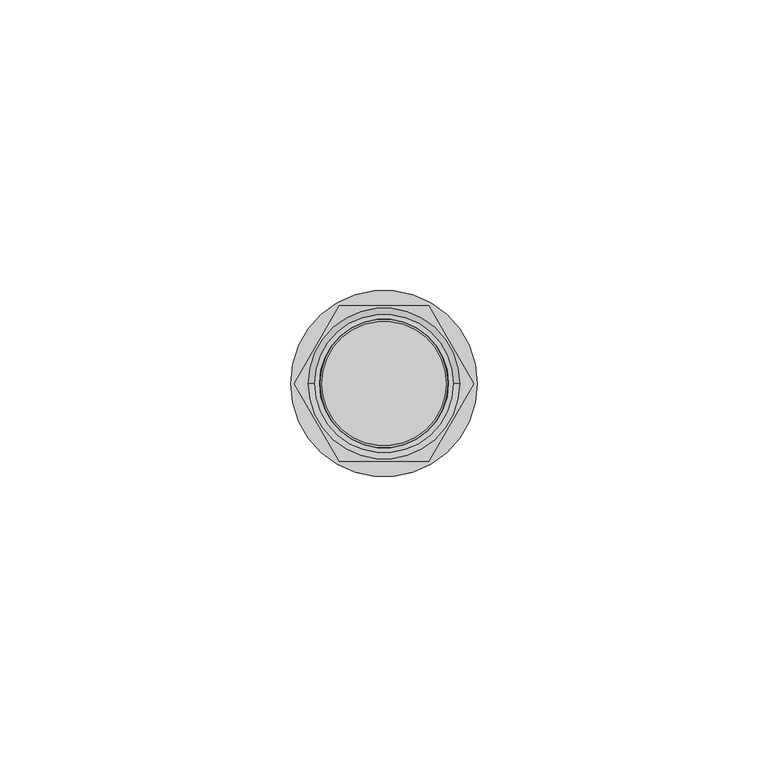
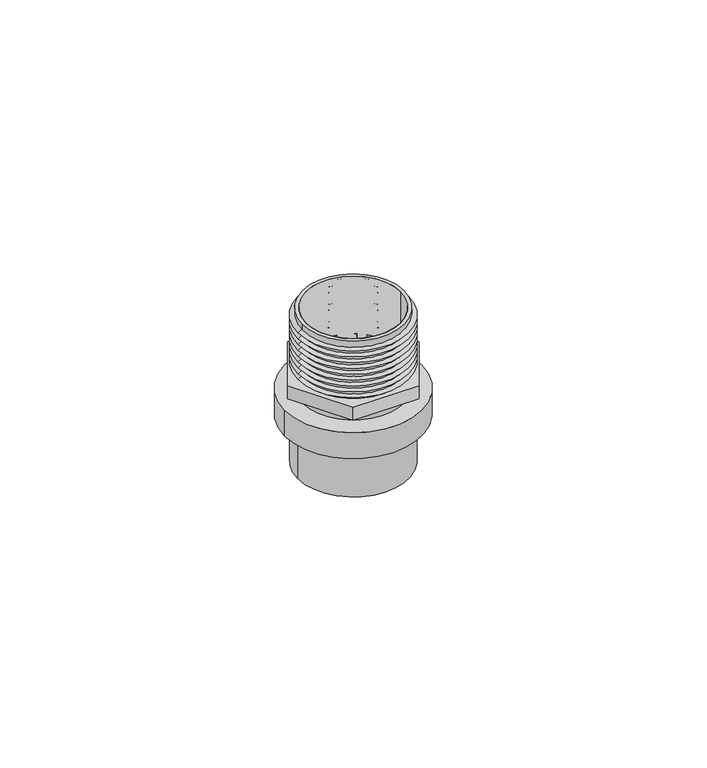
"""IFC4 building model written with IfcOpenShell, lengths in millimetres: valve geometry, Adaptador Macho con Ins Metalico_Lubrizol_CPVC_FlowGuard_MX 19mm : Adaptador Macho con Ins Metalico_Lubrizol_CPVC_FlowGuard_MX 19mm."""

import ifcopenshell
import ifcopenshell.guid

model = None  # the IFC model being written
_history = None  # IfcOwnerHistory: only IFC2X3 demands one
_inside = {}  # id of a spatial element -> (the spatial element, [elements in it])
_under = {}  # id of a project, library or spatial element -> (it, [spatial elements below it])
_declared = {}  # id of a project -> (the project, [libraries it declares])
_typed = {}  # id of a type object -> (the type object, [elements of that type])
_made_of = {}  # id of a material, layer set ... -> (it, [elements and type objects made of it])


def new_model(schema):
    """Start an empty IFC model of exactly this schema.

    Asked for "IFC4X3", IfcOpenShell would pick the latest addendum, in which some entities
    have other attributes; the version numbers below select the first issue.
    IFC2X3 requires an IfcOwnerHistory on every rooted entity: one is made here for all.
    """
    global model, _history
    if schema == "IFC4X3":
        model = ifcopenshell.file(schema_version=(4, 3, 0, 0))
    else:
        model = ifcopenshell.file(schema=schema)
    _inside.clear()
    _under.clear()
    _declared.clear()
    _typed.clear()
    _made_of.clear()
    _history = None
    if model.schema == "IFC2X3":
        org = make("IfcOrganization", Name="unknown")
        user = make(
            "IfcPersonAndOrganization",
            ThePerson=make("IfcPerson", FamilyName="unknown"),
            TheOrganization=org,
        )
        app = make(
            "IfcApplication",
            ApplicationDeveloper=org,
            Version="unknown",
            ApplicationFullName="unknown",
            ApplicationIdentifier="unknown",
        )
        _history = make(
            "IfcOwnerHistory",
            OwningUser=user,
            OwningApplication=app,
            ChangeAction="ADDED",
            CreationDate=0,
        )
    return model


def make(cls, **values):
    """One entity of the class cls with the attributes given. An attribute that is None is left unset."""
    return model.create_entity(
        cls, **{name: value for name, value in values.items() if value is not None}
    )


def rooted(cls, **values):
    """An entity with a GlobalId (a new one), such as an element, a storey or a relation."""
    return make(cls, GlobalId=ifcopenshell.guid.new(), OwnerHistory=_history, **values)


def si_unit(unit_type, name, prefix=None):
    """IfcSIUnit, for example si_unit("LENGTHUNIT", "METRE", prefix="MILLI")."""
    return make("IfcSIUnit", UnitType=unit_type, Prefix=prefix, Name=name)


def assignment(units):
    """IfcUnitAssignment: the units of a project."""
    return None if units is None else make("IfcUnitAssignment", Units=units)


def point(xyz):
    """IfcCartesianPoint."""
    return None if xyz is None else make("IfcCartesianPoint", Coordinates=xyz)


def direction(xyz):
    """IfcDirection."""
    return None if xyz is None else make("IfcDirection", DirectionRatios=xyz)


def frame(location, z_axis=None, x_axis=None):
    """IfcAxis2Placement3D, a coordinate frame: its origin and axes. An axis left out is left unset."""
    return make(
        "IfcAxis2Placement3D",
        Location=point(location),
        Axis=direction(z_axis),
        RefDirection=direction(x_axis),
    )


def frame_2d(location, x_axis=None):
    """IfcAxis2Placement2D, a coordinate frame in the plane: its origin and x axis."""
    return make(
        "IfcAxis2Placement2D", Location=point(location), RefDirection=direction(x_axis)
    )


def origin():
    """The frame at (0, 0, 0) with its axes left unset."""
    return frame((0.0, 0.0, 0.0))


def origin_with_axes():
    """The frame at (0, 0, 0) with the z axis (0, 0, 1) and the x axis (1, 0, 0) written out."""
    return frame((0.0, 0.0, 0.0), z_axis=(0.0, 0.0, 1.0), x_axis=(1.0, 0.0, 0.0))


def origin_2d():
    """The frame at (0, 0) in the plane with its x axis left unset."""
    return frame_2d((0.0, 0.0))


def place(relative_to, where):
    """IfcLocalPlacement: puts the frame where relative to a parent placement (None: the world)."""
    return make(
        "IfcLocalPlacement", PlacementRelTo=relative_to, RelativePlacement=where
    )


def context(
    kind, dimensions, precision=None, world=None, true_north=None, identifier=None
):
    """IfcGeometricRepresentationContext, for example the 3D "Model" context."""
    return make(
        "IfcGeometricRepresentationContext",
        ContextIdentifier=identifier,
        ContextType=kind,
        CoordinateSpaceDimension=dimensions,
        Precision=precision,
        WorldCoordinateSystem=world,
        TrueNorth=true_north,
    )


def project(units=None, contexts=None):
    """IfcProject with its units and contexts."""
    return rooted(
        "IfcProject",
        Name="project",
        RepresentationContexts=contexts,
        UnitsInContext=assignment(units),
    )


def spatial(cls, under=None, at=None, **own):
    """A site, building, storey or space (cls), placed at a placement, below another one or the project."""
    s = rooted(cls, ObjectPlacement=at, **own)
    if under is not None:
        _under.setdefault(under.id(), (under, []))[1].append(s)
    return s


def polyline(points):
    """IfcPolyline through the points."""
    return make("IfcPolyline", Points=[point(p) for p in points])


def circle_curve(where, radius):
    """IfcCircle in the frame where."""
    return make("IfcCircle", Position=where, Radius=radius)


def trimmed(basis, trim1, trim2, sense, master):
    """IfcTrimmedCurve: the piece of a basis curve between two trims."""
    return make(
        "IfcTrimmedCurve",
        BasisCurve=basis,
        Trim1=trim1,
        Trim2=trim2,
        SenseAgreement=sense,
        MasterRepresentation=master,
    )


def segment(curve, same_sense, transition):
    """IfcCompositeCurveSegment."""
    return make(
        "IfcCompositeCurveSegment",
        Transition=transition,
        SameSense=same_sense,
        ParentCurve=curve,
    )


def composite_curve(segments, self_intersect=None):
    """IfcCompositeCurve: segments joined end to end."""
    return make("IfcCompositeCurve", Segments=segments, SelfIntersect=self_intersect)


def outline(outer, holes=None, kind="AREA"):
    """IfcArbitraryClosedProfileDef: a profile drawn as a closed curve; with holes, ...WithVoids."""
    if holes is None:
        return make("IfcArbitraryClosedProfileDef", ProfileType=kind, OuterCurve=outer)
    return make(
        "IfcArbitraryProfileDefWithVoids",
        ProfileType=kind,
        OuterCurve=outer,
        InnerCurves=holes,
    )


def extrude(swept, where, along, depth):
    """IfcExtrudedAreaSolid: the profile swept, set in the frame where, extruded along a direction by depth."""
    return make(
        "IfcExtrudedAreaSolid",
        SweptArea=swept,
        Position=where,
        ExtrudedDirection=direction(along),
        Depth=depth,
    )


def shape(context_of_items, identifier, shape_type, items):
    """IfcShapeRepresentation: the items that make up one representation, for example the "Body"."""
    return make(
        "IfcShapeRepresentation",
        ContextOfItems=context_of_items,
        RepresentationIdentifier=identifier,
        RepresentationType=shape_type,
        Items=items,
    )


def source(mapping_origin, context_of_items, identifier, shape_type, items):
    """IfcRepresentationMap: a shape defined once, which mapped items show again and again."""
    return make(
        "IfcRepresentationMap",
        MappingOrigin=mapping_origin,
        MappedRepresentation=shape(context_of_items, identifier, shape_type, items),
    )


def transform(
    local_origin,
    x_axis=None,
    y_axis=None,
    z_axis=None,
    scale=None,
    scale2=None,
    scale3=None,
    uniform=True,
):
    """IfcCartesianTransformationOperator3D, or its non-uniform kind. x_axis, y_axis, z_axis: its Axis1, 2, 3."""
    if uniform:
        return make(
            "IfcCartesianTransformationOperator3D",
            Axis1=direction(x_axis),
            Axis2=direction(y_axis),
            LocalOrigin=point(local_origin),
            Scale=scale,
            Axis3=direction(z_axis),
        )
    return make(
        "IfcCartesianTransformationOperator3DnonUniform",
        Axis1=direction(x_axis),
        Axis2=direction(y_axis),
        LocalOrigin=point(local_origin),
        Scale=scale,
        Axis3=direction(z_axis),
        Scale2=scale2,
        Scale3=scale3,
    )


def mapped(mapping_source, mapping_target):
    """IfcMappedItem: shows the shape of a source again, moved by a transform."""
    return make(
        "IfcMappedItem", MappingSource=mapping_source, MappingTarget=mapping_target
    )


def made_of(thing, what):
    """Note that an element or type object is made of a material, layer set ...; save() writes the relation."""
    if what is not None:
        _made_of.setdefault(what.id(), (what, []))[1].append(thing)
    return thing


def element(
    cls,
    number,
    at=None,
    inside=None,
    cuts=None,
    type_object=None,
    material=None,
    context=None,
    identifier="Body",
    shape_type=None,
    held_by="IfcProductDefinitionShape",
    body=None,
    shapes=None,
    **own,
):
    """One element of the class cls, such as IfcWall. Its Tag is "e" and its number.

    at: its placement. inside: the storey or other place that contains it. cuts: it is an
    opening in that element (IfcRelVoidsElement). A single representation is given by context,
    identifier, shape_type and body (its items); several are given by shapes. held_by: the class
    of the entity that holds the representations. save() writes the other relations.
    """
    e = rooted(cls, Tag="e%d" % number, ObjectPlacement=at, **own)
    if body is not None:
        shapes = [shape(context, identifier, shape_type, body)]
    if shapes is not None:
        e.Representation = make(held_by, Representations=shapes)
    if inside is not None:
        _inside.setdefault(inside.id(), (inside, []))[1].append(e)
    if cuts is not None:
        rooted(
            "IfcRelVoidsElement", RelatingBuildingElement=cuts, RelatedOpeningElement=e
        )
    if type_object is not None:
        _typed.setdefault(type_object.id(), (type_object, []))[1].append(e)
    return made_of(e, material)


def aggregate(whole, parts):
    """IfcRelAggregates: a whole, such as a stair, and the parts it consists of."""
    return rooted("IfcRelAggregates", RelatingObject=whole, RelatedObjects=parts)


def save(model, path):
    """Write the relations noted so far, then the file.

    IfcRelAggregates (storeys below a building ...), IfcRelContainedInSpatialStructure (elements
    in a storey), IfcRelDefinesByType, IfcRelAssociatesMaterial and IfcRelDeclares: one each for
    every whole, place, type object, material and project.
    """
    for whole, parts in _under.values():
        aggregate(whole, parts)
    for where, things in _inside.values():
        rooted(
            "IfcRelContainedInSpatialStructure",
            RelatedElements=things,
            RelatingStructure=where,
        )
    for kind, things in _typed.values():
        rooted("IfcRelDefinesByType", RelatedObjects=things, RelatingType=kind)
    for what, things in _made_of.values():
        rooted("IfcRelAssociatesMaterial", RelatedObjects=things, RelatingMaterial=what)
    for by, libraries in _declared.values():
        rooted("IfcRelDeclares", RelatingContext=by, RelatedDefinitions=libraries)
    model.write(path)


def plane_surface(at):
    """IfcPlane: the flat surface through the origin of the frame at, square to its z axis."""
    return make("IfcPlane", Position=at)


def cylinder_surface(at, radius):
    """IfcCylindricalSurface: all points at the distance radius from the z axis of the frame at."""
    return make("IfcCylindricalSurface", Position=at, Radius=radius)


def revolved_surface(curve, axis_point, axis_direction):
    """IfcSurfaceOfRevolution: the curve turned about the line through axis_point along axis_direction."""
    return make(
        "IfcSurfaceOfRevolution",
        SweptCurve=make("IfcArbitraryOpenProfileDef", ProfileType="CURVE", Curve=curve),
        AxisPosition=make("IfcAxis1Placement", Location=point(axis_point), Axis=direction(axis_direction)),
    )


def advanced_brep(points, edges, surfaces, faces):
    """IfcAdvancedBrep: a solid bounded by faces that lie on surfaces and meet in shared edges.

    An edge is (start, end): straight between two places in points (the first is 0);
    or (start, end, curve); or (start, end, curve, False) where it runs against its curve.
    A face is (place in surfaces, loops), or (place, loops, False) where it looks against
    its surface's normal. A loop lists edges by number (the first is 1), with a minus sign
    where the edge is run from its end to its start. The first loop is the outer one.
    """
    corners = [point(p) for p in points]
    vertices = [make("IfcVertexPoint", VertexGeometry=c) for c in corners]
    made = []
    for start, end, *more in edges:
        made.append(
            make(
                "IfcEdgeCurve",
                EdgeStart=vertices[start],
                EdgeEnd=vertices[end],
                EdgeGeometry=more[0] if more else make("IfcPolyline", Points=[corners[start], corners[end]]),
                SameSense=more[1] if len(more) > 1 else True,
            )
        )
    hull = []
    for where, loops, *sense in faces:
        bounds = []
        for j, loop in enumerate(loops):
            ring = [make("IfcOrientedEdge", EdgeElement=made[abs(k) - 1], Orientation=k > 0) for k in loop]
            bounds.append(
                make(
                    "IfcFaceOuterBound" if j == 0 else "IfcFaceBound",
                    Bound=make("IfcEdgeLoop", EdgeList=ring),
                    Orientation=True,
                )
            )
        hull.append(make("IfcAdvancedFace", Bounds=bounds, FaceSurface=surfaces[where], SameSense=sense[0] if sense else True))
    return make("IfcAdvancedBrep", Outer=make("IfcClosedShell", CfsFaces=hull))


def valve_b4eb689a(model_context):
    return source(origin(), model_context, "Body", "SolidModel", [
        extrude(outline(composite_curve([segment(trimmed(circle_curve(origin_2d(), 16.0926336), [point((-16.0926336, 0.0))], [point((16.0926336, 0.0))], False, "CARTESIAN"), True, "CONTINUOUS"), segment(trimmed(circle_curve(origin_2d(), 16.0926336), [point((16.0926336, 0.0))], [point((-16.0926336, 0.0))], False, "CARTESIAN"), True, "CONTINUOUS")], self_intersect=False)), frame((0.0, 0.0, 11.6836596), z_axis=(0.0, 0.0, 1.0), x_axis=(1.0, 0.0, 0.0)), (0.0, 0.0, 1.0), 6.4086549),
        extrude(outline(composite_curve([segment(trimmed(circle_curve(origin_2d(), 11.9362873), [point((-11.9362873, 0.0))], [point((11.9362873, 0.0))], False, "CARTESIAN"), True, "CONTINUOUS"), segment(trimmed(circle_curve(origin_2d(), 11.9362873), [point((11.9362873, 0.0))], [point((-11.9362873, 0.0))], False, "CARTESIAN"), True, "CONTINUOUS")], self_intersect=False), holes=[composite_curve([segment(trimmed(circle_curve(origin_2d(), 11.1), [point((-11.1, 0.0))], [point((11.1, 0.0))], True, "CARTESIAN"), True, "CONTINUOUS"), segment(trimmed(circle_curve(origin_2d(), 11.1), [point((11.1, 0.0))], [point((-11.1, 0.0))], True, "CARTESIAN"), True, "CONTINUOUS")], self_intersect=False)]), frame((0.0, 0.0, 18.0923145), z_axis=(0.0, 0.0, 1.0), x_axis=(1.0, 0.0, 0.0)), (0.0, 0.0, 1.0), 19.9076855),
        extrude(outline(polyline([(-7.7266578, -13.382964), (-15.4533157, 0.0), (-7.7266578, 13.382964), (7.7266578, 13.382964), (15.4533157, 0.0), (7.7266578, -13.382964), (-7.7266578, -13.382964)]), holes=[composite_curve([segment(trimmed(circle_curve(origin_2d(), 10.7), [point((-10.7, 0.0))], [point((10.7, 0.0))], True, "CARTESIAN"), True, "CONTINUOUS"), segment(trimmed(circle_curve(origin_2d(), 10.7), [point((10.7, 0.0))], [point((-10.7, 0.0))], True, "CARTESIAN"), True, "CONTINUOUS")], self_intersect=False)]), frame((0.0, 0.0, 20.7420661), z_axis=(0.0, 0.0, 1.0), x_axis=(1.0, 0.0, 0.0)), (0.0, 0.0, 1.0), 3.2579339),
        advanced_brep(
        [(11.9362873, 0.0, 37.0089284), (-11.9362873, 0.0, 37.0089284), (-11.9362873, 0.0, 38.0), (11.9362873, 0.0, 38.0), (13.0, 0.0, 36.2641088), (-13.0, 0.0, 36.2641088), (11.9657757, 0.0, 35.5399371), (-11.9657757, 0.0, 35.5399371), (13.0, 0.0, 34.8157655), (-13.0, 0.0, 34.8157655), (11.9657757, 0.0, 34.0915939), (-11.9657757, 0.0, 34.0915939), (13.0, 0.0, 33.3674223), (-13.0, 0.0, 33.3674223), (11.9657757, 0.0, 32.6432506), (-11.9657757, 0.0, 32.6432506), (13.0, 0.0, 31.919079), (-13.0, 0.0, 31.919079), (11.9657757, 0.0, 31.1949074), (-11.9657757, 0.0, 31.1949074), (13.0, 0.0, 30.4707358), (-13.0, 0.0, 30.4707358), (11.9657757, 0.0, 29.7465641), (-11.9657757, 0.0, 29.7465641), (13.0, 0.0, 29.0223925), (-13.0, 0.0, 29.0223925), (11.9657757, 0.0, 28.2982209), (-11.9657757, 0.0, 28.2982209), (13.0, 0.0, 27.5740493), (-13.0, 0.0, 27.5740493), (11.9657757, 0.0, 26.8498777), (-11.9657757, 0.0, 26.8498777), (11.0854831, 0.0, 24.0), (-11.0854831, 0.0, 24.0), (-12.0326257, 0.0, 24.0), (12.0326257, 0.0, 24.0), (-11.0854831, 0.0, 38.0), (11.0854831, 0.0, 38.0), (13.0, 0.0, 26.125706), (-13.0, 0.0, 26.125706), (11.9657757, 0.0, 25.4015344), (-11.9657757, 0.0, 25.4015344), (13.0, 0.0, 24.6773628), (-13.0, 0.0, 24.6773628)],
        [
            (0, 1, circle_curve(frame((0.0, 0.0, 37.0089284), z_axis=(0.0, 0.0, 1.0), x_axis=(-1.0, 0.0, 0.0)), 11.9362873)),
            (1, 2),
            (2, 3, circle_curve(frame((0.0, 0.0, 38.0), z_axis=(0.0, 0.0, -1.0), x_axis=(-1.0, 0.0, 0.0)), 11.9362873)),
            (3, 0),
            (1, 0, circle_curve(frame((0.0, 0.0, 37.0089284), z_axis=(0.0, 0.0, 1.0), x_axis=(-1.0, 0.0, 0.0)), 11.9362873)),
            (3, 2, circle_curve(frame((0.0, 0.0, 38.0), z_axis=(0.0, 0.0, -1.0), x_axis=(-1.0, 0.0, 0.0)), 11.9362873)),
            (4, 5, circle_curve(frame((0.0, 0.0, 36.2641088), z_axis=(0.0, 0.0, 1.0), x_axis=(-1.0, 0.0, 0.0)), 13.0)),
            (5, 1),
            (0, 4),
            (5, 4, circle_curve(frame((0.0, 0.0, 36.2641088), z_axis=(0.0, 0.0, 1.0), x_axis=(-1.0, 0.0, 0.0)), 13.0)),
            (6, 7, circle_curve(frame((0.0, 0.0, 35.5399371), z_axis=(0.0, 0.0, 1.0), x_axis=(-1.0, 0.0, 0.0)), 11.9657757)),
            (7, 5),
            (4, 6),
            (7, 6, circle_curve(frame((0.0, 0.0, 35.5399371), z_axis=(0.0, 0.0, 1.0), x_axis=(-1.0, 0.0, 0.0)), 11.9657757)),
            (8, 9, circle_curve(frame((0.0, 0.0, 34.8157655), z_axis=(0.0, 0.0, 1.0), x_axis=(-1.0, 0.0, 0.0)), 13.0)),
            (9, 7),
            (6, 8),
            (9, 8, circle_curve(frame((0.0, 0.0, 34.8157655), z_axis=(0.0, 0.0, 1.0), x_axis=(-1.0, 0.0, 0.0)), 13.0)),
            (10, 11, circle_curve(frame((0.0, 0.0, 34.0915939), z_axis=(0.0, 0.0, 1.0), x_axis=(-1.0, 0.0, 0.0)), 11.9657757)),
            (11, 9),
            (8, 10),
            (11, 10, circle_curve(frame((0.0, 0.0, 34.0915939), z_axis=(0.0, 0.0, 1.0), x_axis=(-1.0, 0.0, 0.0)), 11.9657757)),
            (12, 13, circle_curve(frame((0.0, 0.0, 33.3674223), z_axis=(0.0, 0.0, 1.0), x_axis=(-1.0, 0.0, 0.0)), 13.0)),
            (13, 11),
            (10, 12),
            (13, 12, circle_curve(frame((0.0, 0.0, 33.3674223), z_axis=(0.0, 0.0, 1.0), x_axis=(-1.0, 0.0, 0.0)), 13.0)),
            (14, 15, circle_curve(frame((0.0, 0.0, 32.6432506), z_axis=(0.0, 0.0, 1.0), x_axis=(-1.0, 0.0, 0.0)), 11.9657757)),
            (15, 13),
            (12, 14),
            (15, 14, circle_curve(frame((0.0, 0.0, 32.6432506), z_axis=(0.0, 0.0, 1.0), x_axis=(-1.0, 0.0, 0.0)), 11.9657757)),
            (16, 17, circle_curve(frame((0.0, 0.0, 31.919079), z_axis=(0.0, 0.0, 1.0), x_axis=(-1.0, 0.0, 0.0)), 13.0)),
            (17, 15),
            (14, 16),
            (17, 16, circle_curve(frame((0.0, 0.0, 31.919079), z_axis=(0.0, 0.0, 1.0), x_axis=(-1.0, 0.0, 0.0)), 13.0)),
            (18, 19, circle_curve(frame((0.0, 0.0, 31.1949074), z_axis=(0.0, 0.0, 1.0), x_axis=(-1.0, 0.0, 0.0)), 11.9657757)),
            (19, 17),
            (16, 18),
            (19, 18, circle_curve(frame((0.0, 0.0, 31.1949074), z_axis=(0.0, 0.0, 1.0), x_axis=(-1.0, 0.0, 0.0)), 11.9657757)),
            (20, 21, circle_curve(frame((0.0, 0.0, 30.4707358), z_axis=(0.0, 0.0, 1.0), x_axis=(-1.0, 0.0, 0.0)), 13.0)),
            (21, 19),
            (18, 20),
            (21, 20, circle_curve(frame((0.0, 0.0, 30.4707358), z_axis=(0.0, 0.0, 1.0), x_axis=(-1.0, 0.0, 0.0)), 13.0)),
            (22, 23, circle_curve(frame((0.0, 0.0, 29.7465641), z_axis=(0.0, 0.0, 1.0), x_axis=(-1.0, 0.0, 0.0)), 11.9657757)),
            (23, 21),
            (20, 22),
            (23, 22, circle_curve(frame((0.0, 0.0, 29.7465641), z_axis=(0.0, 0.0, 1.0), x_axis=(-1.0, 0.0, 0.0)), 11.9657757)),
            (24, 25, circle_curve(frame((0.0, 0.0, 29.0223925), z_axis=(0.0, 0.0, 1.0), x_axis=(-1.0, 0.0, 0.0)), 13.0)),
            (25, 23),
            (22, 24),
            (25, 24, circle_curve(frame((0.0, 0.0, 29.0223925), z_axis=(0.0, 0.0, 1.0), x_axis=(-1.0, 0.0, 0.0)), 13.0)),
            (26, 27, circle_curve(frame((0.0, 0.0, 28.2982209), z_axis=(0.0, 0.0, 1.0), x_axis=(-1.0, 0.0, 0.0)), 11.9657757)),
            (27, 25),
            (24, 26),
            (27, 26, circle_curve(frame((0.0, 0.0, 28.2982209), z_axis=(0.0, 0.0, 1.0), x_axis=(-1.0, 0.0, 0.0)), 11.9657757)),
            (28, 29, circle_curve(frame((0.0, 0.0, 27.5740493), z_axis=(0.0, 0.0, 1.0), x_axis=(-1.0, 0.0, 0.0)), 13.0)),
            (29, 27),
            (26, 28),
            (29, 28, circle_curve(frame((0.0, 0.0, 27.5740493), z_axis=(0.0, 0.0, 1.0), x_axis=(-1.0, 0.0, 0.0)), 13.0)),
            (30, 31, circle_curve(frame((0.0, 0.0, 26.8498777), z_axis=(0.0, 0.0, 1.0), x_axis=(-1.0, 0.0, 0.0)), 11.9657757)),
            (31, 29),
            (28, 30),
            (31, 30, circle_curve(frame((0.0, 0.0, 26.8498777), z_axis=(0.0, 0.0, 1.0), x_axis=(-1.0, 0.0, 0.0)), 11.9657757)),
            (32, 33, circle_curve(frame((0.0, 0.0, 24.0), z_axis=(0.0, 0.0, 1.0), x_axis=(-1.0, 0.0, 0.0)), 11.0854831)),
            (33, 34),
            (34, 35, circle_curve(frame((0.0, 0.0, 24.0), z_axis=(0.0, 0.0, -1.0), x_axis=(-1.0, 0.0, 0.0)), 12.0326257)),
            (35, 32),
            (33, 32, circle_curve(frame((0.0, 0.0, 24.0), z_axis=(0.0, 0.0, 1.0), x_axis=(-1.0, 0.0, 0.0)), 11.0854831)),
            (35, 34, circle_curve(frame((0.0, 0.0, 24.0), z_axis=(0.0, 0.0, -1.0), x_axis=(-1.0, 0.0, 0.0)), 12.0326257)),
            (2, 36),
            (36, 37, circle_curve(frame((0.0, 0.0, 38.0), z_axis=(0.0, 0.0, -1.0), x_axis=(-1.0, 0.0, 0.0)), 11.0854831)),
            (37, 3),
            (37, 36, circle_curve(frame((0.0, 0.0, 38.0), z_axis=(0.0, 0.0, -1.0), x_axis=(-1.0, 0.0, 0.0)), 11.0854831)),
            (36, 33),
            (32, 37),
            (38, 39, circle_curve(frame((0.0, 0.0, 26.125706), z_axis=(0.0, 0.0, 1.0), x_axis=(-1.0, 0.0, 0.0)), 13.0)),
            (39, 31),
            (30, 38),
            (39, 38, circle_curve(frame((0.0, 0.0, 26.125706), z_axis=(0.0, 0.0, 1.0), x_axis=(-1.0, 0.0, 0.0)), 13.0)),
            (40, 41, circle_curve(frame((0.0, 0.0, 25.4015344), z_axis=(0.0, 0.0, 1.0), x_axis=(-1.0, 0.0, 0.0)), 11.9657757)),
            (41, 39),
            (38, 40),
            (41, 40, circle_curve(frame((0.0, 0.0, 25.4015344), z_axis=(0.0, 0.0, 1.0), x_axis=(-1.0, 0.0, 0.0)), 11.9657757)),
            (42, 43, circle_curve(frame((0.0, 0.0, 24.6773628), z_axis=(0.0, 0.0, 1.0), x_axis=(-1.0, 0.0, 0.0)), 13.0)),
            (43, 41),
            (40, 42),
            (43, 42, circle_curve(frame((0.0, 0.0, 24.6773628), z_axis=(0.0, 0.0, 1.0), x_axis=(-1.0, 0.0, 0.0)), 13.0)),
            (34, 43),
            (42, 35),
        ],
        [
            cylinder_surface(frame((0.0, 0.0, 32.7589883), z_axis=(0.0, 0.0, -1.0), x_axis=(-1.0, 0.0, 0.0)), 11.9362873),
            revolved_surface(polyline([(-11.9362873, 0.0, 37.0089284), (-13.0, 0.0, 36.2641088)]), (0.0, 0.0, 32.7589883), (0.0, 0.0, -1.0)),
            revolved_surface(polyline([(-13.0, 0.0, 36.2641088), (-11.9657757, 0.0, 35.5399371)]), (0.0, 0.0, 32.7589883), (0.0, 0.0, -1.0)),
            revolved_surface(polyline([(-11.9657757, 0.0, 35.5399371), (-13.0, 0.0, 34.8157655)]), (0.0, 0.0, 32.7589883), (0.0, 0.0, -1.0)),
            revolved_surface(polyline([(-13.0, 0.0, 34.8157655), (-11.9657757, 0.0, 34.0915939)]), (0.0, 0.0, 32.7589883), (0.0, 0.0, -1.0)),
            revolved_surface(polyline([(-11.9657757, 0.0, 34.0915939), (-13.0, 0.0, 33.3674223)]), (0.0, 0.0, 32.7589883), (0.0, 0.0, -1.0)),
            revolved_surface(polyline([(-13.0, 0.0, 33.3674223), (-11.9657757, 0.0, 32.6432506)]), (0.0, 0.0, 32.7589883), (0.0, 0.0, -1.0)),
            revolved_surface(polyline([(-11.9657757, 0.0, 32.6432506), (-13.0, 0.0, 31.919079)]), (0.0, 0.0, 32.7589883), (0.0, 0.0, -1.0)),
            revolved_surface(polyline([(-13.0, 0.0, 31.919079), (-11.9657757, 0.0, 31.1949074)]), (0.0, 0.0, 32.7589883), (0.0, 0.0, -1.0)),
            revolved_surface(polyline([(-11.9657757, 0.0, 31.1949074), (-13.0, 0.0, 30.4707358)]), (0.0, 0.0, 32.7589883), (0.0, 0.0, -1.0)),
            revolved_surface(polyline([(-13.0, 0.0, 30.4707358), (-11.9657757, 0.0, 29.7465641)]), (0.0, 0.0, 32.7589883), (0.0, 0.0, -1.0)),
            revolved_surface(polyline([(-11.9657757, 0.0, 29.7465641), (-13.0, 0.0, 29.0223925)]), (0.0, 0.0, 32.7589883), (0.0, 0.0, -1.0)),
            revolved_surface(polyline([(-13.0, 0.0, 29.0223925), (-11.9657757, 0.0, 28.2982209)]), (0.0, 0.0, 32.7589883), (0.0, 0.0, -1.0)),
            revolved_surface(polyline([(-11.9657757, 0.0, 28.2982209), (-13.0, 0.0, 27.5740493)]), (0.0, 0.0, 32.7589883), (0.0, 0.0, -1.0)),
            revolved_surface(polyline([(-13.0, 0.0, 27.5740493), (-11.9657757, 0.0, 26.8498777)]), (0.0, 0.0, 32.7589883), (0.0, 0.0, -1.0)),
            plane_surface(frame((0.0, 0.0, 24.0), z_axis=(0.0, 0.0, -1.0), x_axis=(-1.0, 0.0, 0.0))),
            plane_surface(frame((0.0, 0.0, 38.0), z_axis=(0.0, 0.0, 1.0), x_axis=(-1.0, 0.0, 0.0))),
            revolved_surface(polyline([(-11.0854831, 0.0, 24.0), (-11.0854831, 0.0, 38.0)]), (0.0, 0.0, 32.7589883), (0.0, 0.0, -1.0)),
            revolved_surface(polyline([(-11.9657757, 0.0, 26.8498777), (-13.0, 0.0, 26.125706)]), (0.0, 0.0, 32.7589883), (0.0, 0.0, -1.0)),
            revolved_surface(polyline([(-13.0, 0.0, 26.125706), (-11.9657757, 0.0, 25.4015344)]), (0.0, 0.0, 32.7589883), (0.0, 0.0, -1.0)),
            revolved_surface(polyline([(-11.9657757, 0.0, 25.4015344), (-13.0, 0.0, 24.6773628)]), (0.0, 0.0, 32.7589883), (0.0, 0.0, -1.0)),
            revolved_surface(polyline([(-13.0, 0.0, 24.6773628), (-12.0326257, 0.0, 24.0)]), (0.0, 0.0, 32.7589883), (0.0, 0.0, -1.0)),
        ],
        [
            (0, [[1, 2, 3, 4]]),
            (0, [[5, -4, 6, -2]]),
            (1, [[7, 8, -1, 9]]),
            (1, [[10, -9, -5, -8]]),
            (2, [[11, 12, -7, 13]]),
            (2, [[14, -13, -10, -12]]),
            (3, [[15, 16, -11, 17]]),
            (3, [[18, -17, -14, -16]]),
            (4, [[19, 20, -15, 21]]),
            (4, [[22, -21, -18, -20]]),
            (5, [[23, 24, -19, 25]]),
            (5, [[26, -25, -22, -24]]),
            (6, [[27, 28, -23, 29]]),
            (6, [[30, -29, -26, -28]]),
            (7, [[31, 32, -27, 33]]),
            (7, [[34, -33, -30, -32]]),
            (8, [[35, 36, -31, 37]]),
            (8, [[38, -37, -34, -36]]),
            (9, [[39, 40, -35, 41]]),
            (9, [[42, -41, -38, -40]]),
            (10, [[43, 44, -39, 45]]),
            (10, [[46, -45, -42, -44]]),
            (11, [[47, 48, -43, 49]]),
            (11, [[50, -49, -46, -48]]),
            (12, [[51, 52, -47, 53]]),
            (12, [[54, -53, -50, -52]]),
            (13, [[55, 56, -51, 57]]),
            (13, [[58, -57, -54, -56]]),
            (14, [[59, 60, -55, 61]]),
            (14, [[62, -61, -58, -60]]),
            (15, [[63, 64, 65, 66]]),
            (15, [[67, -66, 68, -64]]),
            (16, [[-3, 69, 70, 71]]),
            (16, [[-6, -71, 72, -69]]),
            (17, [[-70, 73, -63, 74]]),
            (17, [[-72, -74, -67, -73]]),
            (18, [[75, 76, -59, 77]]),
            (18, [[78, -77, -62, -76]]),
            (19, [[79, 80, -75, 81]]),
            (19, [[82, -81, -78, -80]]),
            (20, [[83, 84, -79, 85]]),
            (20, [[86, -85, -82, -84]]),
            (21, [[-65, 87, -83, 88]]),
            (21, [[-68, -88, -86, -87]]),
        ],
    ),
        extrude(outline(composite_curve([segment(trimmed(circle_curve(origin_2d(), 13.0), [point((-13.0, 0.0))], [point((13.0, 0.0))], False, "CARTESIAN"), True, "CONTINUOUS"), segment(trimmed(circle_curve(origin_2d(), 13.0), [point((13.0, 0.0))], [point((-13.0, 0.0))], False, "CARTESIAN"), True, "CONTINUOUS")], self_intersect=False), holes=[composite_curve([segment(trimmed(circle_curve(origin_2d(), 11.1), [point((-11.1, 0.0))], [point((11.1, 0.0))], True, "CARTESIAN"), True, "CONTINUOUS"), segment(trimmed(circle_curve(origin_2d(), 11.1), [point((11.1, 0.0))], [point((-11.1, 0.0))], True, "CARTESIAN"), True, "CONTINUOUS")], self_intersect=False)]), origin_with_axes(), (0.0, 0.0, 1.0), 11.6836596),
    ])


if __name__ == "__main__":
    model = new_model("IFC4")
    model_context = context("Model", 3, world=origin())
    ifc_project = project(units=[si_unit("LENGTHUNIT", "METRE", prefix="MILLI")], contexts=[model_context])
    site = spatial("IfcSite", under=ifc_project)
    building = spatial("IfcBuilding", under=site)
    placement = place(None, origin())
    valve_shape = valve_b4eb689a(model_context)
    element("IfcValve", 1, ObjectType="Adaptador Macho con Ins Metalico_Lubrizol_CPVC_FlowGuard_MX 19mm : Adaptador Macho con Ins Metalico_Lubrizol_CPVC_FlowGuard_MX 19mm", at=placement, inside=building, context=model_context, shape_type="MappedRepresentation", body=[
        mapped(valve_shape, transform((0.0, 0.0, 0.0), x_axis=(1.0, 0.0, 0.0), y_axis=(0.0, 1.0, 0.0), z_axis=(0.0, 0.0, 1.0))),
    ])
    save(model, "model.ifc")
